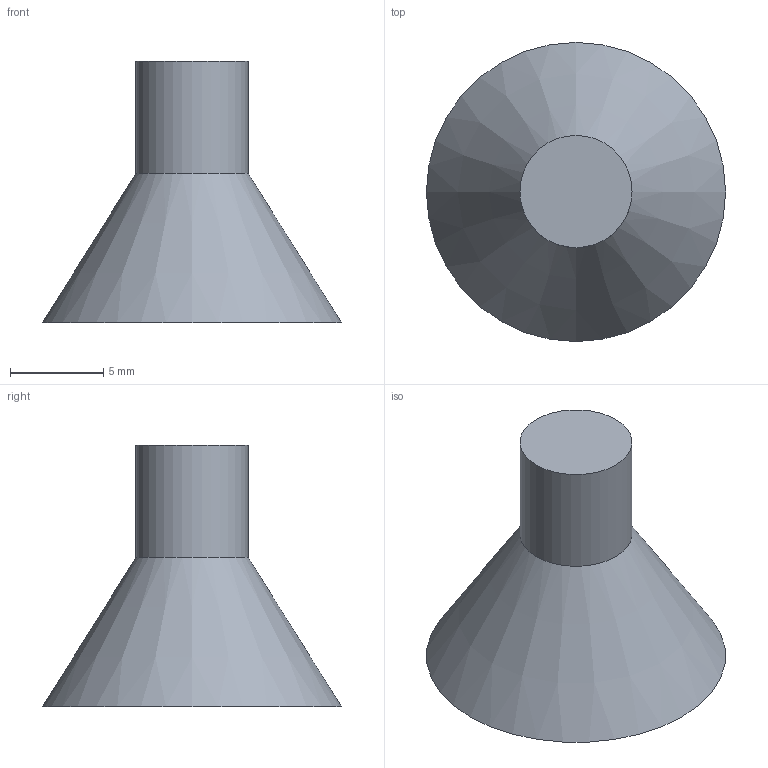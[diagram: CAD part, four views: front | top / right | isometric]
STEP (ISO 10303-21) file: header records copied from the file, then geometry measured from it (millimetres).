
FILE_DESCRIPTION(('Open CASCADE Model'),'2;1');
FILE_NAME('nozzle','2026-08-12T02:42:45',('Author'),('Open CASCADE'), 'Open CASCADE STEP processor 7.9','build123d','Unknown');
FILE_SCHEMA(('AUTOMOTIVE_DESIGN { 1 0 10303 214 1 1 1 1 }'));
Length unit declared in the file: millimetre
Products named in the file (3): nozzle; COMPOUND
Assembly tree (2 placements, depth 2):
  nozzle
    COMPOUND
    COMPOUND
Bounding box: 16 x 16 x 14 mm (x, y, z)
Volume: 982.3 mm3; surface area: 725 mm2
Topology: 2 solids, 2 shells, 6 faces, 6 edges, 4 vertices
Faces by surface type: plane 4, cone 1, cylinder 1
Full cylindrical faces by diameter (mm): 6 x1
Entity records: 236 total; most frequent: DIRECTION 40, CARTESIAN_POINT 31, AXIS2_PLACEMENT_3D 13, ORIENTED_EDGE 12, PCURVE 12, DEFINITIONAL_REPRESENTATION 12, LINE 10, VECTOR 10
